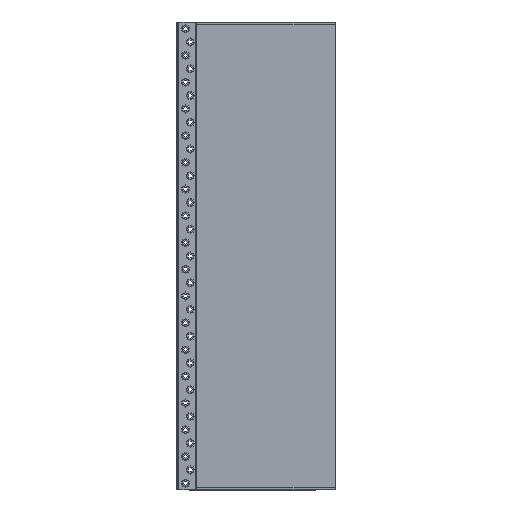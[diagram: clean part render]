
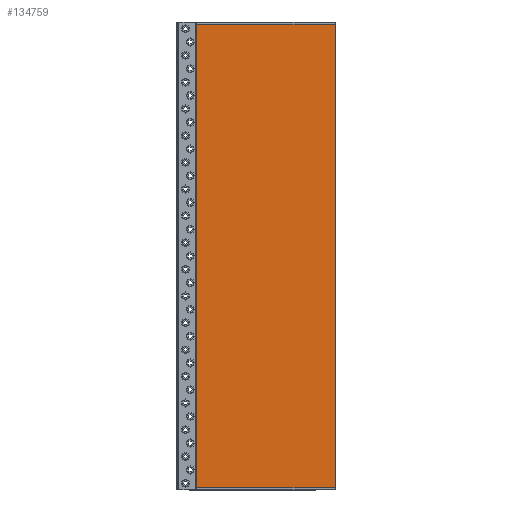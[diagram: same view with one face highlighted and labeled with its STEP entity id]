
A CAD part, top view. The second image highlights one B-rep face of the part: STEP entity #134759.
In plain terms, the highlighted planar face has unit normal (0, 0, 1).
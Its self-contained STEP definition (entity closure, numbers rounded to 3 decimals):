
#134445 = VERTEX_POINT('',#134446);
#134446 = CARTESIAN_POINT('',(9957.179,3.,
    0.));
#134453 = PLANE('',#134454);
#134454 = AXIS2_PLACEMENT_3D('',#134455,#134456,#134457);
#134455 = CARTESIAN_POINT('',(9957.179,3.,
    -25.));
#134456 = DIRECTION('',(0.,1.,0.));
#134457 = DIRECTION('',(1.,0.,0.));
#134465 = PLANE('',#134466);
#134466 = AXIS2_PLACEMENT_3D('',#134467,#134468,#134469);
#134467 = CARTESIAN_POINT('',(9957.179,697.,
    -25.));
#134468 = DIRECTION('',(1.,0.,0.));
#134469 = DIRECTION('',(0.,-1.,0.));
#134477 = EDGE_CURVE('',#134445,#134478,#134480,.T.);
#134478 = VERTEX_POINT('',#134479);
#134479 = CARTESIAN_POINT('',(10164.679,3.,
    0.));
#134480 = SURFACE_CURVE('',#134481,(#134485,#134492),.PCURVE_S1.);
#134481 = LINE('',#134482,#134483);
#134482 = CARTESIAN_POINT('',(9957.179,3.,
    0.));
#134483 = VECTOR('',#134484,1.);
#134484 = DIRECTION('',(1.,0.,0.));
#134485 = PCURVE('',#134453,#134486);
#134486 = DEFINITIONAL_REPRESENTATION('',(#134487),#134491);
#134487 = LINE('',#134488,#134489);
#134488 = CARTESIAN_POINT('',(0.,-25.));
#134489 = VECTOR('',#134490,1.);
#134490 = DIRECTION('',(1.,0.));
#134491 = ( GEOMETRIC_REPRESENTATION_CONTEXT(2) 
PARAMETRIC_REPRESENTATION_CONTEXT() REPRESENTATION_CONTEXT('2D SPACE',''
  ) );
#134492 = PCURVE('',#134493,#134498);
#134493 = PLANE('',#134494);
#134494 = AXIS2_PLACEMENT_3D('',#134495,#134496,#134497);
#134495 = CARTESIAN_POINT('',(10060.929,350.,
    0.));
#134496 = DIRECTION('',(0.,0.,1.));
#134497 = DIRECTION('',(1.,0.,0.));
#134498 = DEFINITIONAL_REPRESENTATION('',(#134499),#134503);
#134499 = LINE('',#134500,#134501);
#134500 = CARTESIAN_POINT('',(-103.75,-347.));
#134501 = VECTOR('',#134502,1.);
#134502 = DIRECTION('',(1.,0.));
#134503 = ( GEOMETRIC_REPRESENTATION_CONTEXT(2) 
PARAMETRIC_REPRESENTATION_CONTEXT() REPRESENTATION_CONTEXT('2D SPACE',''
  ) );
#134521 = PLANE('',#134522);
#134522 = AXIS2_PLACEMENT_3D('',#134523,#134524,#134525);
#134523 = CARTESIAN_POINT('',(10164.679,3.,
    -25.));
#134524 = DIRECTION('',(-1.,0.,0.));
#134525 = DIRECTION('',(0.,1.,0.));
#134563 = EDGE_CURVE('',#134478,#134564,#134566,.T.);
#134564 = VERTEX_POINT('',#134565);
#134565 = CARTESIAN_POINT('',(10164.679,697.,
    0.));
#134566 = SURFACE_CURVE('',#134567,(#134571,#134578),.PCURVE_S1.);
#134567 = LINE('',#134568,#134569);
#134568 = CARTESIAN_POINT('',(10164.679,3.,
    0.));
#134569 = VECTOR('',#134570,1.);
#134570 = DIRECTION('',(0.,1.,0.));
#134571 = PCURVE('',#134521,#134572);
#134572 = DEFINITIONAL_REPRESENTATION('',(#134573),#134577);
#134573 = LINE('',#134574,#134575);
#134574 = CARTESIAN_POINT('',(0.,-25.));
#134575 = VECTOR('',#134576,1.);
#134576 = DIRECTION('',(1.,0.));
#134577 = ( GEOMETRIC_REPRESENTATION_CONTEXT(2) 
PARAMETRIC_REPRESENTATION_CONTEXT() REPRESENTATION_CONTEXT('2D SPACE',''
  ) );
#134578 = PCURVE('',#134493,#134579);
#134579 = DEFINITIONAL_REPRESENTATION('',(#134580),#134584);
#134580 = LINE('',#134581,#134582);
#134581 = CARTESIAN_POINT('',(103.75,-347.));
#134582 = VECTOR('',#134583,1.);
#134583 = DIRECTION('',(0.,1.));
#134584 = ( GEOMETRIC_REPRESENTATION_CONTEXT(2) 
PARAMETRIC_REPRESENTATION_CONTEXT() REPRESENTATION_CONTEXT('2D SPACE',''
  ) );
#134602 = PLANE('',#134603);
#134603 = AXIS2_PLACEMENT_3D('',#134604,#134605,#134606);
#134604 = CARTESIAN_POINT('',(10164.679,697.,
    -25.));
#134605 = DIRECTION('',(0.,-1.,0.));
#134606 = DIRECTION('',(-1.,0.,0.));
#134639 = EDGE_CURVE('',#134564,#134640,#134642,.T.);
#134640 = VERTEX_POINT('',#134641);
#134641 = CARTESIAN_POINT('',(9957.179,697.,
    0.));
#134642 = SURFACE_CURVE('',#134643,(#134647,#134654),.PCURVE_S1.);
#134643 = LINE('',#134644,#134645);
#134644 = CARTESIAN_POINT('',(10164.679,697.,
    0.));
#134645 = VECTOR('',#134646,1.);
#134646 = DIRECTION('',(-1.,0.,0.));
#134647 = PCURVE('',#134602,#134648);
#134648 = DEFINITIONAL_REPRESENTATION('',(#134649),#134653);
#134649 = LINE('',#134650,#134651);
#134650 = CARTESIAN_POINT('',(0.,-25.));
#134651 = VECTOR('',#134652,1.);
#134652 = DIRECTION('',(1.,0.));
#134653 = ( GEOMETRIC_REPRESENTATION_CONTEXT(2) 
PARAMETRIC_REPRESENTATION_CONTEXT() REPRESENTATION_CONTEXT('2D SPACE',''
  ) );
#134654 = PCURVE('',#134493,#134655);
#134655 = DEFINITIONAL_REPRESENTATION('',(#134656),#134660);
#134656 = LINE('',#134657,#134658);
#134657 = CARTESIAN_POINT('',(103.75,347.));
#134658 = VECTOR('',#134659,1.);
#134659 = DIRECTION('',(-1.,0.));
#134660 = ( GEOMETRIC_REPRESENTATION_CONTEXT(2) 
PARAMETRIC_REPRESENTATION_CONTEXT() REPRESENTATION_CONTEXT('2D SPACE',''
  ) );
#134710 = EDGE_CURVE('',#134640,#134445,#134711,.T.);
#134711 = SURFACE_CURVE('',#134712,(#134716,#134723),.PCURVE_S1.);
#134712 = LINE('',#134713,#134714);
#134713 = CARTESIAN_POINT('',(9957.179,697.,
    0.));
#134714 = VECTOR('',#134715,1.);
#134715 = DIRECTION('',(0.,-1.,0.));
#134716 = PCURVE('',#134465,#134717);
#134717 = DEFINITIONAL_REPRESENTATION('',(#134718),#134722);
#134718 = LINE('',#134719,#134720);
#134719 = CARTESIAN_POINT('',(0.,-25.));
#134720 = VECTOR('',#134721,1.);
#134721 = DIRECTION('',(1.,0.));
#134722 = ( GEOMETRIC_REPRESENTATION_CONTEXT(2) 
PARAMETRIC_REPRESENTATION_CONTEXT() REPRESENTATION_CONTEXT('2D SPACE',''
  ) );
#134723 = PCURVE('',#134493,#134724);
#134724 = DEFINITIONAL_REPRESENTATION('',(#134725),#134729);
#134725 = LINE('',#134726,#134727);
#134726 = CARTESIAN_POINT('',(-103.75,347.));
#134727 = VECTOR('',#134728,1.);
#134728 = DIRECTION('',(0.,-1.));
#134729 = ( GEOMETRIC_REPRESENTATION_CONTEXT(2) 
PARAMETRIC_REPRESENTATION_CONTEXT() REPRESENTATION_CONTEXT('2D SPACE',''
  ) );
#134759 = ADVANCED_FACE('',(#134760),#134493,.T.);
#134760 = FACE_BOUND('',#134761,.T.);
#134761 = EDGE_LOOP('',(#134762,#134763,#134764,#134765));
#134762 = ORIENTED_EDGE('',*,*,#134477,.T.);
#134763 = ORIENTED_EDGE('',*,*,#134563,.T.);
#134764 = ORIENTED_EDGE('',*,*,#134639,.T.);
#134765 = ORIENTED_EDGE('',*,*,#134710,.T.);
